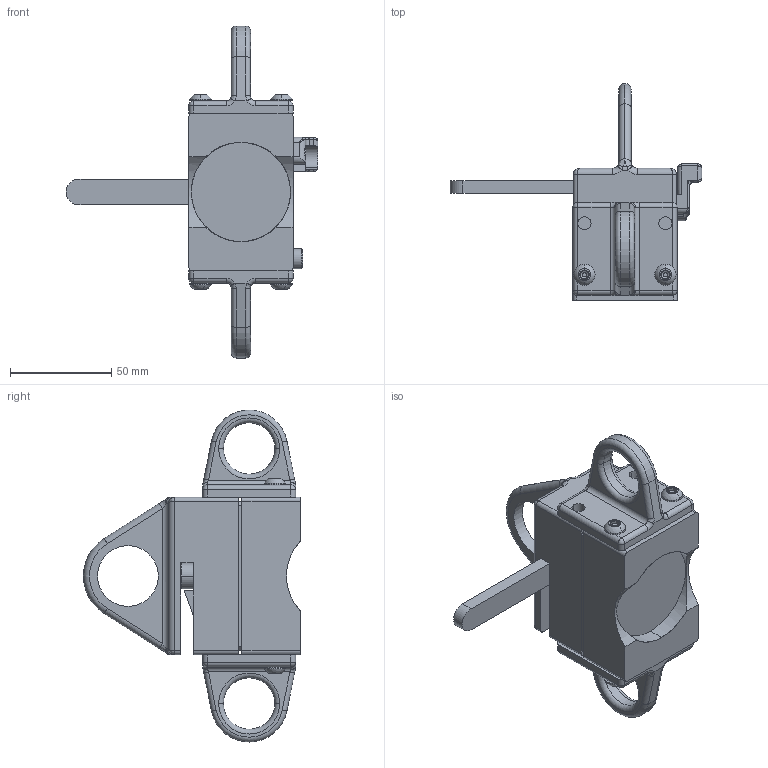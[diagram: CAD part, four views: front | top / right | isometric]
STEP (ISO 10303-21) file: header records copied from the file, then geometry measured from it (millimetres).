
FILE_DESCRIPTION (( 'STEP AP214' ), '1' );
FILE_NAME ('8000111_p.STEP', '2020-03-10T18:26:53', ( '' ), ( '' ), 'SwSTEP 2.0', 'SolidWorks 2018', '' );
FILE_SCHEMA (( 'AUTOMOTIVE_DESIGN' ));
Length unit declared in the file: millimetre
Products named in the file (1): 8000111_p
Bounding box: 124.35 x 107.28 x 164 mm (x, y, z)
Volume: 283329.5 mm3; surface area: 60760.2 mm2
Topology: 2 solids, 21 shells, 1898 faces, 4230 edges, 2339 vertices
Faces by surface type: cylinder 836, cone 678, plane 286, torus 42, bspline 36, sphere 20
Entity records: 95552 total; most frequent: CARTESIAN_POINT 35106, ORIENTED_EDGE 8382, DIRECTION 8149, EDGE_CURVE 4191, AXIS2_PLACEMENT_3D 3153, VERTEX_POINT 2339, EDGE_LOOP 1954, FACE_OUTER_BOUND 1898
